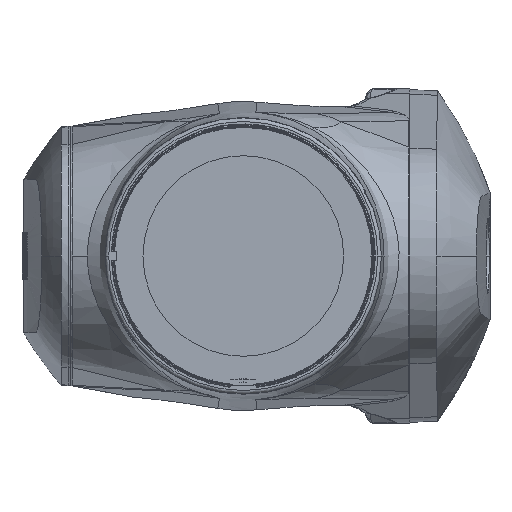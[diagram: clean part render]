
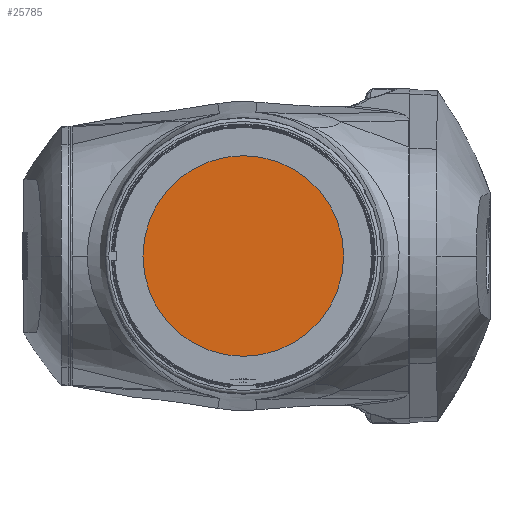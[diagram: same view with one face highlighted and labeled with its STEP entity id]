
A CAD part, left-side view. The second image highlights one B-rep face of the part: STEP entity #25785.
In plain terms, the highlighted planar face has unit normal (-1, 0, 0).
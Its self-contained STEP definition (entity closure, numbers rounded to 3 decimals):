
#1055 = DIRECTION ( 'NONE',  ( -1., 0., 0. ) ) ;
#1100 = CIRCLE ( 'NONE', #17678, 85. ) ;
#2931 = DIRECTION ( 'NONE',  ( 0., -1., 0. ) ) ;
#4147 = CARTESIAN_POINT ( 'NONE',  ( 117., 0., 2375.728 ) ) ;
#5601 = AXIS2_PLACEMENT_3D ( 'NONE', #4147, #1055, #29847 ) ;
#6112 = CIRCLE ( 'NONE', #28585, 85. ) ;
#7052 = FACE_OUTER_BOUND ( 'NONE', #7164, .T. ) ;
#7164 = EDGE_LOOP ( 'NONE', ( #38445, #18363 ) ) ;
#7982 = DIRECTION ( 'NONE',  ( 1., 0., 0. ) ) ;
#11298 = CARTESIAN_POINT ( 'NONE',  ( 117., 0., 2266. ) ) ;
#16005 = DIRECTION ( 'NONE',  ( 1., 0., 0. ) ) ;
#16538 = VERTEX_POINT ( 'NONE', #29714 ) ;
#16999 = EDGE_CURVE ( 'NONE', #16538, #22301, #1100, .T. ) ;
#17678 = AXIS2_PLACEMENT_3D ( 'NONE', #31328, #16005, #2931 ) ;
#18363 = ORIENTED_EDGE ( 'NONE', *, *, #16999, .F. ) ;
#18916 = CARTESIAN_POINT ( 'NONE',  ( 117., -85., 2266. ) ) ;
#22301 = VERTEX_POINT ( 'NONE', #18916 ) ;
#25785 = ADVANCED_FACE ( 'NONE', ( #7052 ), #35477, .T. ) ;
#28585 = AXIS2_PLACEMENT_3D ( 'NONE', #11298, #7982, #36591 ) ;
#29714 = CARTESIAN_POINT ( 'NONE',  ( 117., 85., 2266. ) ) ;
#29847 = DIRECTION ( 'NONE',  ( 0., 0., 1. ) ) ;
#31328 = CARTESIAN_POINT ( 'NONE',  ( 117., 0., 2266. ) ) ;
#35477 = PLANE ( 'NONE',  #5601 ) ;
#36591 = DIRECTION ( 'NONE',  ( 0., -1., 0. ) ) ;
#38071 = EDGE_CURVE ( 'NONE', #22301, #16538, #6112, .T. ) ;
#38445 = ORIENTED_EDGE ( 'NONE', *, *, #38071, .F. ) ;
